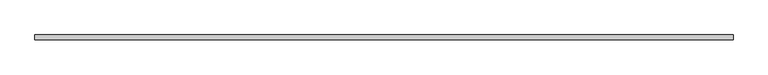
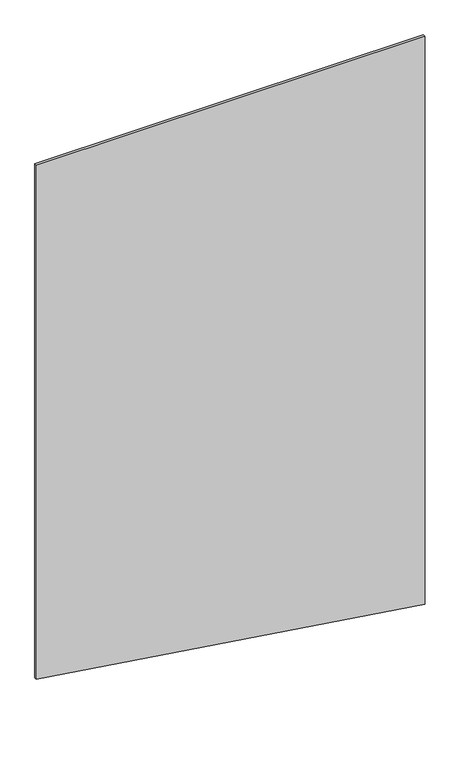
"""IFC4 building model written with IfcOpenShell, lengths in millimetres: plate geometry, 系統嵌板 : 玻璃 1.0cm."""

import ifcopenshell
import ifcopenshell.guid

model = None  # the IFC model being written
_history = None  # IfcOwnerHistory: only IFC2X3 demands one
_inside = {}  # id of a spatial element -> (the spatial element, [elements in it])
_under = {}  # id of a project, library or spatial element -> (it, [spatial elements below it])
_declared = {}  # id of a project -> (the project, [libraries it declares])
_typed = {}  # id of a type object -> (the type object, [elements of that type])
_made_of = {}  # id of a material, layer set ... -> (it, [elements and type objects made of it])


def new_model(schema):
    """Start an empty IFC model of exactly this schema.

    Asked for "IFC4X3", IfcOpenShell would pick the latest addendum, in which some entities
    have other attributes; the version numbers below select the first issue.
    IFC2X3 requires an IfcOwnerHistory on every rooted entity: one is made here for all.
    """
    global model, _history
    if schema == "IFC4X3":
        model = ifcopenshell.file(schema_version=(4, 3, 0, 0))
    else:
        model = ifcopenshell.file(schema=schema)
    _inside.clear()
    _under.clear()
    _declared.clear()
    _typed.clear()
    _made_of.clear()
    _history = None
    if model.schema == "IFC2X3":
        org = make("IfcOrganization", Name="unknown")
        user = make(
            "IfcPersonAndOrganization",
            ThePerson=make("IfcPerson", FamilyName="unknown"),
            TheOrganization=org,
        )
        app = make(
            "IfcApplication",
            ApplicationDeveloper=org,
            Version="unknown",
            ApplicationFullName="unknown",
            ApplicationIdentifier="unknown",
        )
        _history = make(
            "IfcOwnerHistory",
            OwningUser=user,
            OwningApplication=app,
            ChangeAction="ADDED",
            CreationDate=0,
        )
    return model


def make(cls, **values):
    """One entity of the class cls with the attributes given. An attribute that is None is left unset."""
    return model.create_entity(
        cls, **{name: value for name, value in values.items() if value is not None}
    )


def rooted(cls, **values):
    """An entity with a GlobalId (a new one), such as an element, a storey or a relation."""
    return make(cls, GlobalId=ifcopenshell.guid.new(), OwnerHistory=_history, **values)


def si_unit(unit_type, name, prefix=None):
    """IfcSIUnit, for example si_unit("LENGTHUNIT", "METRE", prefix="MILLI")."""
    return make("IfcSIUnit", UnitType=unit_type, Prefix=prefix, Name=name)


def assignment(units):
    """IfcUnitAssignment: the units of a project."""
    return None if units is None else make("IfcUnitAssignment", Units=units)


def point(xyz):
    """IfcCartesianPoint."""
    return None if xyz is None else make("IfcCartesianPoint", Coordinates=xyz)


def direction(xyz):
    """IfcDirection."""
    return None if xyz is None else make("IfcDirection", DirectionRatios=xyz)


def frame(location, z_axis=None, x_axis=None):
    """IfcAxis2Placement3D, a coordinate frame: its origin and axes. An axis left out is left unset."""
    return make(
        "IfcAxis2Placement3D",
        Location=point(location),
        Axis=direction(z_axis),
        RefDirection=direction(x_axis),
    )


def origin():
    """The frame at (0, 0, 0) with its axes left unset."""
    return frame((0.0, 0.0, 0.0))


def place(relative_to, where):
    """IfcLocalPlacement: puts the frame where relative to a parent placement (None: the world)."""
    return make(
        "IfcLocalPlacement", PlacementRelTo=relative_to, RelativePlacement=where
    )


def context(
    kind, dimensions, precision=None, world=None, true_north=None, identifier=None
):
    """IfcGeometricRepresentationContext, for example the 3D "Model" context."""
    return make(
        "IfcGeometricRepresentationContext",
        ContextIdentifier=identifier,
        ContextType=kind,
        CoordinateSpaceDimension=dimensions,
        Precision=precision,
        WorldCoordinateSystem=world,
        TrueNorth=true_north,
    )


def project(units=None, contexts=None):
    """IfcProject with its units and contexts."""
    return rooted(
        "IfcProject",
        Name="project",
        RepresentationContexts=contexts,
        UnitsInContext=assignment(units),
    )


def spatial(cls, under=None, at=None, **own):
    """A site, building, storey or space (cls), placed at a placement, below another one or the project."""
    s = rooted(cls, ObjectPlacement=at, **own)
    if under is not None:
        _under.setdefault(under.id(), (under, []))[1].append(s)
    return s


def polyline(points):
    """IfcPolyline through the points."""
    return make("IfcPolyline", Points=[point(p) for p in points])


def outline(outer, holes=None, kind="AREA"):
    """IfcArbitraryClosedProfileDef: a profile drawn as a closed curve; with holes, ...WithVoids."""
    if holes is None:
        return make("IfcArbitraryClosedProfileDef", ProfileType=kind, OuterCurve=outer)
    return make(
        "IfcArbitraryProfileDefWithVoids",
        ProfileType=kind,
        OuterCurve=outer,
        InnerCurves=holes,
    )


def extrude(swept, where, along, depth):
    """IfcExtrudedAreaSolid: the profile swept, set in the frame where, extruded along a direction by depth."""
    return make(
        "IfcExtrudedAreaSolid",
        SweptArea=swept,
        Position=where,
        ExtrudedDirection=direction(along),
        Depth=depth,
    )


def shape(context_of_items, identifier, shape_type, items):
    """IfcShapeRepresentation: the items that make up one representation, for example the "Body"."""
    return make(
        "IfcShapeRepresentation",
        ContextOfItems=context_of_items,
        RepresentationIdentifier=identifier,
        RepresentationType=shape_type,
        Items=items,
    )


def source(mapping_origin, context_of_items, identifier, shape_type, items):
    """IfcRepresentationMap: a shape defined once, which mapped items show again and again."""
    return make(
        "IfcRepresentationMap",
        MappingOrigin=mapping_origin,
        MappedRepresentation=shape(context_of_items, identifier, shape_type, items),
    )


def transform(
    local_origin,
    x_axis=None,
    y_axis=None,
    z_axis=None,
    scale=None,
    scale2=None,
    scale3=None,
    uniform=True,
):
    """IfcCartesianTransformationOperator3D, or its non-uniform kind. x_axis, y_axis, z_axis: its Axis1, 2, 3."""
    if uniform:
        return make(
            "IfcCartesianTransformationOperator3D",
            Axis1=direction(x_axis),
            Axis2=direction(y_axis),
            LocalOrigin=point(local_origin),
            Scale=scale,
            Axis3=direction(z_axis),
        )
    return make(
        "IfcCartesianTransformationOperator3DnonUniform",
        Axis1=direction(x_axis),
        Axis2=direction(y_axis),
        LocalOrigin=point(local_origin),
        Scale=scale,
        Axis3=direction(z_axis),
        Scale2=scale2,
        Scale3=scale3,
    )


def mapped(mapping_source, mapping_target):
    """IfcMappedItem: shows the shape of a source again, moved by a transform."""
    return make(
        "IfcMappedItem", MappingSource=mapping_source, MappingTarget=mapping_target
    )


def made_of(thing, what):
    """Note that an element or type object is made of a material, layer set ...; save() writes the relation."""
    if what is not None:
        _made_of.setdefault(what.id(), (what, []))[1].append(thing)
    return thing


def element(
    cls,
    number,
    at=None,
    inside=None,
    cuts=None,
    type_object=None,
    material=None,
    context=None,
    identifier="Body",
    shape_type=None,
    held_by="IfcProductDefinitionShape",
    body=None,
    shapes=None,
    **own,
):
    """One element of the class cls, such as IfcWall. Its Tag is "e" and its number.

    at: its placement. inside: the storey or other place that contains it. cuts: it is an
    opening in that element (IfcRelVoidsElement). A single representation is given by context,
    identifier, shape_type and body (its items); several are given by shapes. held_by: the class
    of the entity that holds the representations. save() writes the other relations.
    """
    e = rooted(cls, Tag="e%d" % number, ObjectPlacement=at, **own)
    if body is not None:
        shapes = [shape(context, identifier, shape_type, body)]
    if shapes is not None:
        e.Representation = make(held_by, Representations=shapes)
    if inside is not None:
        _inside.setdefault(inside.id(), (inside, []))[1].append(e)
    if cuts is not None:
        rooted(
            "IfcRelVoidsElement", RelatingBuildingElement=cuts, RelatedOpeningElement=e
        )
    if type_object is not None:
        _typed.setdefault(type_object.id(), (type_object, []))[1].append(e)
    return made_of(e, material)


def aggregate(whole, parts):
    """IfcRelAggregates: a whole, such as a stair, and the parts it consists of."""
    return rooted("IfcRelAggregates", RelatingObject=whole, RelatedObjects=parts)


def save(model, path):
    """Write the relations noted so far, then the file.

    IfcRelAggregates (storeys below a building ...), IfcRelContainedInSpatialStructure (elements
    in a storey), IfcRelDefinesByType, IfcRelAssociatesMaterial and IfcRelDeclares: one each for
    every whole, place, type object, material and project.
    """
    for whole, parts in _under.values():
        aggregate(whole, parts)
    for where, things in _inside.values():
        rooted(
            "IfcRelContainedInSpatialStructure",
            RelatedElements=things,
            RelatingStructure=where,
        )
    for kind, things in _typed.values():
        rooted("IfcRelDefinesByType", RelatedObjects=things, RelatingType=kind)
    for what, things in _made_of.values():
        rooted("IfcRelAssociatesMaterial", RelatedObjects=things, RelatingMaterial=what)
    for by, libraries in _declared.values():
        rooted("IfcRelDeclares", RelatingContext=by, RelatedDefinitions=libraries)
    model.write(path)


def plate_3bd94b8d(model_context):
    return source(origin(), model_context, "Body", "SweptSolid", [
        extrude(outline(polyline([(219.4173749, -750.0), (0.0, 750.0), (2316.3260774, 750.0), (2316.3260774, -750.0), (219.4173749, -750.0)])), frame((0.0, -5.0, 0.0), z_axis=(0.0, 1.0, 0.0), x_axis=(0.0, 0.0, 1.0)), (0.0, 0.0, 1.0), 10.0),
    ])


if __name__ == "__main__":
    model = new_model("IFC4")
    model_context = context("Model", 3, world=origin())
    ifc_project = project(units=[si_unit("LENGTHUNIT", "METRE", prefix="MILLI")], contexts=[model_context])
    site = spatial("IfcSite", under=ifc_project)
    building = spatial("IfcBuilding", under=site)
    placement = place(None, origin())
    plate_shape = plate_3bd94b8d(model_context)
    element("IfcPlate", 1, ObjectType="系統嵌板 : 玻璃 1.0cm", at=placement, inside=building, context=model_context, shape_type="MappedRepresentation", body=[
        mapped(plate_shape, transform((0.0, 0.0, 0.0), x_axis=(1.0, 0.0, 0.0), y_axis=(0.0, 1.0, 0.0), z_axis=(0.0, 0.0, 1.0))),
    ])
    save(model, "model.ifc")
